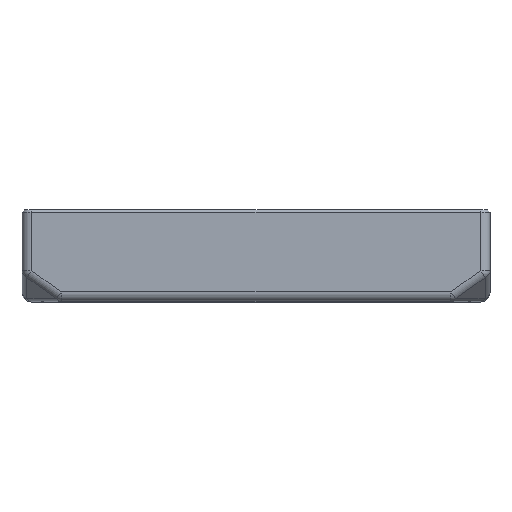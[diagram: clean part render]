
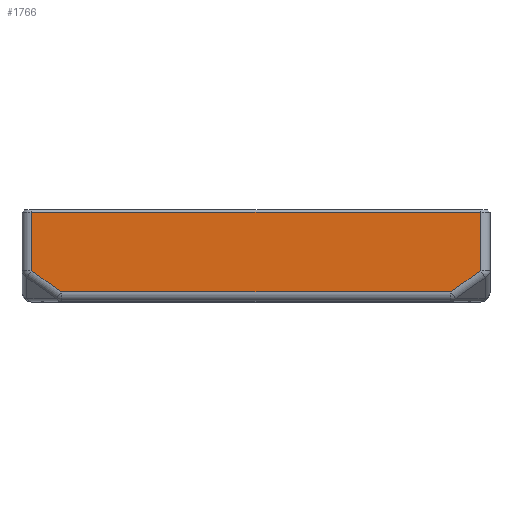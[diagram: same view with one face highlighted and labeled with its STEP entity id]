
A CAD part, top view. The second image highlights one B-rep face of the part: STEP entity #1766.
In plain terms, the highlighted planar face has unit normal (0, 0, 1).
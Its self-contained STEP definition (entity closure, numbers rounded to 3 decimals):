
#138 = EDGE_CURVE ( 'NONE', #2848, #2090, #6301, .T. ) ;
#180 = ORIENTED_EDGE ( 'NONE', *, *, #1539, .T. ) ;
#390 = CARTESIAN_POINT ( 'NONE',  ( 1.2, 6.414, 2. ) ) ;
#397 = LINE ( 'NONE', #1368, #2876 ) ;
#561 = DIRECTION ( 'NONE',  ( -1., 0., 0. ) ) ;
#584 = LINE ( 'NONE', #893, #5647 ) ;
#658 = VECTOR ( 'NONE', #5180, 1000. ) ;
#893 = CARTESIAN_POINT ( 'NONE',  ( 0., 2., 2. ) ) ;
#975 = DIRECTION ( 'NONE',  ( 0.816, -0.577, 0. ) ) ;
#1098 = ORIENTED_EDGE ( 'NONE', *, *, #138, .T. ) ;
#1195 = CARTESIAN_POINT ( 'NONE',  ( 88.557, 2., 2. ) ) ;
#1239 = VECTOR ( 'NONE', #561, 1000. ) ;
#1317 = ORIENTED_EDGE ( 'NONE', *, *, #1487, .T. ) ;
#1368 = CARTESIAN_POINT ( 'NONE',  ( 94.8, 19.1, 2. ) ) ;
#1449 = CARTESIAN_POINT ( 'NONE',  ( 1.2, 18.6, 2. ) ) ;
#1487 = EDGE_CURVE ( 'NONE', #4103, #2848, #397, .T. ) ;
#1539 = EDGE_CURVE ( 'NONE', #2841, #4103, #2579, .T. ) ;
#1654 = AXIS2_PLACEMENT_3D ( 'NONE', #2147, #1686, #3814 ) ;
#1686 = DIRECTION ( 'NONE',  ( 0., 0., 1. ) ) ;
#1766 = ADVANCED_FACE ( 'NONE', ( #3340 ), #5298, .T. ) ;
#2090 = VERTEX_POINT ( 'NONE', #1449 ) ;
#2147 = CARTESIAN_POINT ( 'NONE',  ( 0., 0., 2. ) ) ;
#2248 = CARTESIAN_POINT ( 'NONE',  ( 1.2, 6.414, 2. ) ) ;
#2306 = CARTESIAN_POINT ( 'NONE',  ( 7.443, 2., 2. ) ) ;
#2448 = DIRECTION ( 'NONE',  ( 0., 1., 0. ) ) ;
#2458 = VERTEX_POINT ( 'NONE', #2306 ) ;
#2514 = VECTOR ( 'NONE', #975, 1000. ) ;
#2551 = EDGE_LOOP ( 'NONE', ( #1317, #1098, #5173, #3302, #2609, #180 ) ) ;
#2579 = LINE ( 'NONE', #4511, #5175 ) ;
#2609 = ORIENTED_EDGE ( 'NONE', *, *, #5111, .T. ) ;
#2841 = VERTEX_POINT ( 'NONE', #1195 ) ;
#2848 = VERTEX_POINT ( 'NONE', #5704 ) ;
#2876 = VECTOR ( 'NONE', #2448, 1000. ) ;
#3027 = CARTESIAN_POINT ( 'NONE',  ( 0., 18.6, 2. ) ) ;
#3302 = ORIENTED_EDGE ( 'NONE', *, *, #4289, .T. ) ;
#3340 = FACE_OUTER_BOUND ( 'NONE', #2551, .T. ) ;
#3814 = DIRECTION ( 'NONE',  ( 1., 0., 0. ) ) ;
#3860 = DIRECTION ( 'NONE',  ( 1., 0., 0. ) ) ;
#3978 = LINE ( 'NONE', #4001, #2514 ) ;
#4001 = CARTESIAN_POINT ( 'NONE',  ( 8.938, 0.943, 2. ) ) ;
#4103 = VERTEX_POINT ( 'NONE', #5482 ) ;
#4289 = EDGE_CURVE ( 'NONE', #5648, #2458, #3978, .T. ) ;
#4511 = CARTESIAN_POINT ( 'NONE',  ( 96.133, 7.357, 2. ) ) ;
#4964 = EDGE_CURVE ( 'NONE', #2090, #5648, #5730, .T. ) ;
#5111 = EDGE_CURVE ( 'NONE', #2458, #2841, #584, .T. ) ;
#5173 = ORIENTED_EDGE ( 'NONE', *, *, #4964, .T. ) ;
#5175 = VECTOR ( 'NONE', #5448, 1000. ) ;
#5180 = DIRECTION ( 'NONE',  ( 0., -1., 0. ) ) ;
#5298 = PLANE ( 'NONE',  #1654 ) ;
#5448 = DIRECTION ( 'NONE',  ( 0.816, 0.577, 0. ) ) ;
#5482 = CARTESIAN_POINT ( 'NONE',  ( 94.8, 6.414, 2. ) ) ;
#5647 = VECTOR ( 'NONE', #3860, 1000. ) ;
#5648 = VERTEX_POINT ( 'NONE', #390 ) ;
#5704 = CARTESIAN_POINT ( 'NONE',  ( 94.8, 18.6, 2. ) ) ;
#5730 = LINE ( 'NONE', #2248, #658 ) ;
#6301 = LINE ( 'NONE', #3027, #1239 ) ;
